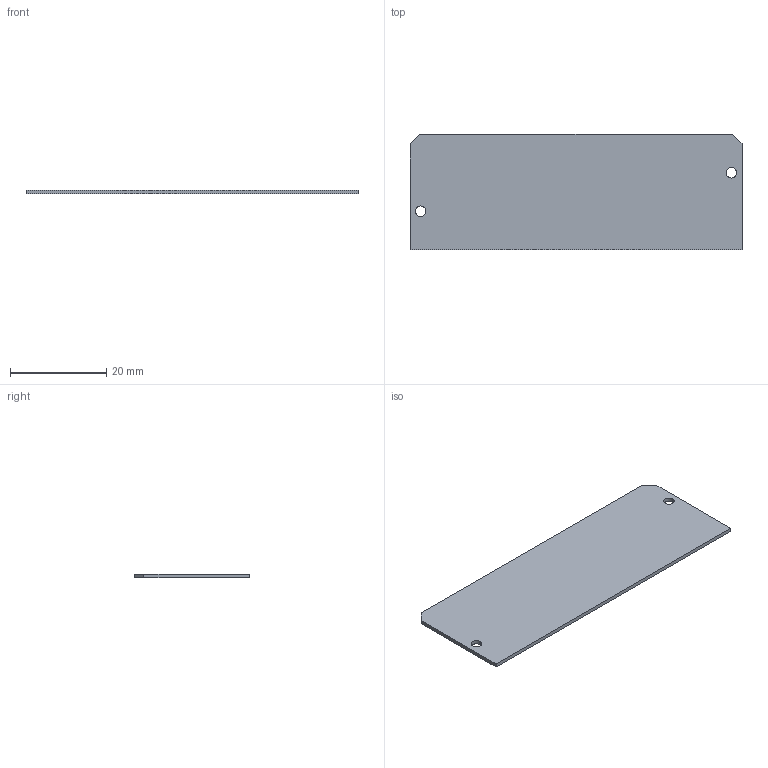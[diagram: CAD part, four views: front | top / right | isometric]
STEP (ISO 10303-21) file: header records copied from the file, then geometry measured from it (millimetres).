
FILE_DESCRIPTION (( 'STEP AP214' ), '1' );
FILE_NAME ('LBS30-00-060-3-POLARIZER-V.STEP', '2021-11-05T06:09:33', ( '' ), ( '' ), 'SwSTEP 2.0', 'SolidWorks 2021', '' );
FILE_SCHEMA (( 'AUTOMOTIVE_DESIGN' ));
Length unit declared in the file: millimetre
Products named in the file (1): LBS30-00-060-3-POLARIZER-V
Bounding box: 69 x 24 x 0.8 mm (x, y, z)
Volume: 1315.5 mm3; surface area: 3446.8 mm2
Topology: 1 solids, 1 shells, 12 faces, 30 edges, 20 vertices
Faces by surface type: plane 8, cylinder 4
Entity records: 404 total; most frequent: DIRECTION 64, CARTESIAN_POINT 63, ORIENTED_EDGE 60, EDGE_CURVE 30, LINE 22, VECTOR 22, AXIS2_PLACEMENT_3D 21, VERTEX_POINT 20
